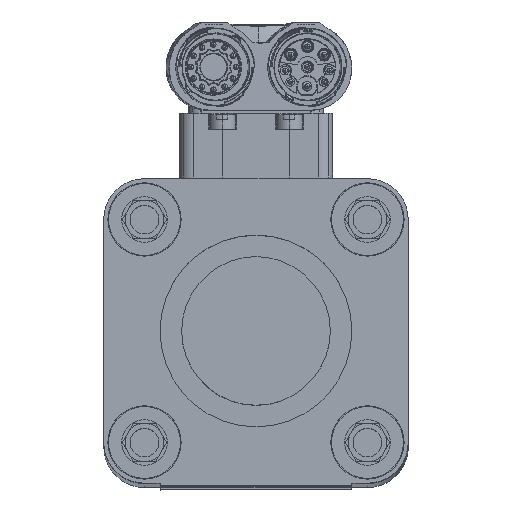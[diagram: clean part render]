
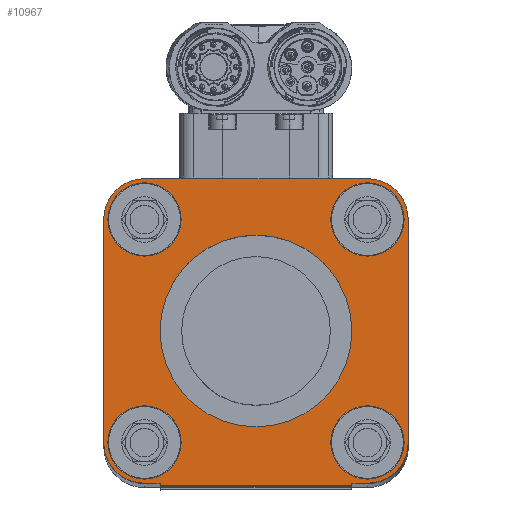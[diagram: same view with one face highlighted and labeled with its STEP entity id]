
A CAD part, left-side view. The second image highlights one B-rep face of the part: STEP entity #10967.
In plain terms, the highlighted planar face has unit normal (-1, 0, 0.002) as drawn and (0, 0, 1) by its records, which use the part's own axes.
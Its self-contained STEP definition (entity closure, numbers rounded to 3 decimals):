
#10967=ADVANCED_FACE('10:20',(#20415,#20416,#20417,#20418,#20419,#20420),#20421,.T.);
#20415=FACE_BOUND('',#51255,.T.);
#20416=FACE_BOUND('',#51256,.T.);
#20417=FACE_BOUND('',#51257,.T.);
#20418=FACE_BOUND('',#51258,.T.);
#20419=FACE_BOUND('',#51259,.T.);
#20420=FACE_OUTER_BOUND('',#51260,.T.);
#20421=PLANE('',#51261);
#51255=EDGE_LOOP('',(#71096,#71097));
#51256=EDGE_LOOP('',(#71098,#71099));
#51257=EDGE_LOOP('',(#71100,#71101));
#51258=EDGE_LOOP('',(#71102,#71103));
#51259=EDGE_LOOP('',(#71104,#71105));
#51260=EDGE_LOOP('',(#71106,#71107,#71108,#71109,#71110,#71111,#71112,#71113,#71114,#71115,#71116,#71117,#71118,#71119,#71120,#71121));
#51261=AXIS2_PLACEMENT_3D('',#71122,#71123,#71124);
#71096=ORIENTED_EDGE('',*,*,#73947,.F.);
#71097=ORIENTED_EDGE('',*,*,#75986,.F.);
#71098=ORIENTED_EDGE('',*,*,#81495,.F.);
#71099=ORIENTED_EDGE('',*,*,#82841,.F.);
#71100=ORIENTED_EDGE('',*,*,#75368,.F.);
#71101=ORIENTED_EDGE('',*,*,#73560,.F.);
#71102=ORIENTED_EDGE('',*,*,#81790,.F.);
#71103=ORIENTED_EDGE('',*,*,#83077,.F.);
#71104=ORIENTED_EDGE('',*,*,#78621,.F.);
#71105=ORIENTED_EDGE('',*,*,#78952,.F.);
#71106=ORIENTED_EDGE('',*,*,#74975,.F.);
#71107=ORIENTED_EDGE('',*,*,#72731,.F.);
#71108=ORIENTED_EDGE('',*,*,#81949,.F.);
#71109=ORIENTED_EDGE('',*,*,#79448,.F.);
#71110=ORIENTED_EDGE('',*,*,#79035,.F.);
#71111=ORIENTED_EDGE('',*,*,#76624,.F.);
#71112=ORIENTED_EDGE('',*,*,#78450,.F.);
#71113=ORIENTED_EDGE('',*,*,#79685,.F.);
#71114=ORIENTED_EDGE('',*,*,#73058,.F.);
#71115=ORIENTED_EDGE('',*,*,#81585,.F.);
#71116=ORIENTED_EDGE('',*,*,#76385,.F.);
#71117=ORIENTED_EDGE('',*,*,#72128,.F.);
#71118=ORIENTED_EDGE('',*,*,#82962,.F.);
#71119=ORIENTED_EDGE('',*,*,#77769,.F.);
#71120=ORIENTED_EDGE('',*,*,#82789,.F.);
#71121=ORIENTED_EDGE('',*,*,#77857,.F.);
#71122=CARTESIAN_POINT('',(0.0,0.0,34.0));
#71123=DIRECTION('',(0.0,0.0,1.0));
#71124=DIRECTION('',(1.0,0.0,0.0));
#72128=EDGE_CURVE('',#85198,#85200,#85201,.T.);
#72731=EDGE_CURVE('',#86239,#86235,#86241,.F.);
#73058=EDGE_CURVE('',#86793,#86795,#86796,.F.);
#73560=EDGE_CURVE('',#87672,#87674,#87675,.F.);
#73947=EDGE_CURVE('',#88328,#88324,#88330,.T.);
#74975=EDGE_CURVE('',#86235,#90096,#90099,.F.);
#75368=EDGE_CURVE('',#87674,#87672,#90768,.F.);
#75986=EDGE_CURVE('',#88324,#88328,#91815,.T.);
#76385=EDGE_CURVE('',#85200,#92488,#92489,.F.);
#76624=EDGE_CURVE('',#92888,#92890,#92891,.F.);
#77769=EDGE_CURVE('',#94839,#94841,#94842,.T.);
#77857=EDGE_CURVE('',#90096,#94987,#94988,.F.);
#78450=EDGE_CURVE('',#96002,#92888,#96004,.F.);
#78621=EDGE_CURVE('',#96294,#96290,#96296,.F.);
#78952=EDGE_CURVE('',#96290,#96294,#96832,.F.);
#79035=EDGE_CURVE('',#92890,#96972,#96975,.F.);
#79448=EDGE_CURVE('',#96972,#97674,#97677,.F.);
#79685=EDGE_CURVE('',#86795,#96002,#98083,.F.);
#81495=EDGE_CURVE('',#101212,#101210,#101214,.F.);
#81585=EDGE_CURVE('',#92488,#86793,#101358,.F.);
#81790=EDGE_CURVE('',#101700,#101698,#101702,.F.);
#81949=EDGE_CURVE('',#97674,#86239,#101964,.F.);
#82789=EDGE_CURVE('',#94987,#94839,#103367,.F.);
#82841=EDGE_CURVE('',#101210,#101212,#103456,.F.);
#82962=EDGE_CURVE('',#94841,#85198,#103663,.T.);
#83077=EDGE_CURVE('',#101698,#101700,#103866,.F.);
#85198=VERTEX_POINT('',#107862);
#85200=VERTEX_POINT('',#107865);
#85201=LINE('',#107866,#107867);
#86235=VERTEX_POINT('',#109851);
#86239=VERTEX_POINT('',#109857);
#86241=LINE('',#109860,#109861);
#86793=VERTEX_POINT('',#110890);
#86795=VERTEX_POINT('',#110893);
#86796=CIRCLE('',#110894,8.5);
#87672=VERTEX_POINT('',#112432);
#87674=VERTEX_POINT('',#112435);
#87675=CIRCLE('',#112436,7.65);
#88324=VERTEX_POINT('',#113558);
#88328=VERTEX_POINT('',#113563);
#88330=CIRCLE('',#113566,20.0);
#90096=VERTEX_POINT('',#116891);
#90099=CIRCLE('',#116895,8.5);
#90768=CIRCLE('',#118219,7.65);
#91815=CIRCLE('',#119976,20.0);
#92488=VERTEX_POINT('',#121059);
#92489=LINE('',#121060,#121061);
#92888=VERTEX_POINT('',#121705);
#92890=VERTEX_POINT('',#121708);
#92891=CIRCLE('',#121709,8.5);
#94839=VERTEX_POINT('',#125996);
#94841=VERTEX_POINT('',#125999);
#94842=LINE('',#126000,#126001);
#94987=VERTEX_POINT('',#126266);
#94988=CIRCLE('',#126267,8.5);
#96002=VERTEX_POINT('',#128126);
#96004=CIRCLE('',#128129,8.5);
#96290=VERTEX_POINT('',#128738);
#96294=VERTEX_POINT('',#128743);
#96296=CIRCLE('',#128746,7.65);
#96832=CIRCLE('',#129681,7.65);
#96972=VERTEX_POINT('',#129952);
#96975=LINE('',#129957,#129958);
#97674=VERTEX_POINT('',#131323);
#97677=CIRCLE('',#131327,8.5);
#98083=LINE('',#132162,#132163);
#101210=VERTEX_POINT('',#137787);
#101212=VERTEX_POINT('',#137790);
#101214=CIRCLE('',#137793,7.65);
#101358=CIRCLE('',#138133,8.5);
#101698=VERTEX_POINT('',#138903);
#101700=VERTEX_POINT('',#138906);
#101702=CIRCLE('',#138909,7.65);
#101964=CIRCLE('',#139432,8.5);
#103367=LINE('',#142420,#142421);
#103456=CIRCLE('',#142560,7.65);
#103663=LINE('',#142939,#142940);
#103866=CIRCLE('',#143272,7.65);
#107862=CARTESIAN_POINT('',(-4.191,-45.636,34.0));
#107865=CARTESIAN_POINT('',(-4.191,-45.136,34.0));
#107866=CARTESIAN_POINT('',(-4.191,-45.636,34.0));
#107867=VECTOR('',#148628,1.0);
#109851=CARTESIAN_POINT('',(47.559,-36.636,34.0));
#109857=CARTESIAN_POINT('',(47.559,9.864,34.0));
#109860=CARTESIAN_POINT('',(47.559,-6.693,34.0));
#109861=VECTOR('',#149254,1.0);
#110890=CARTESIAN_POINT('',(-13.451,-42.647,34.0));
#110893=CARTESIAN_POINT('',(-15.941,-36.636,34.0));
#110894=AXIS2_PLACEMENT_3D('',#149623,#149624,#149625);
#112432=CARTESIAN_POINT('',(0.209,-36.636,34.0));
#112435=CARTESIAN_POINT('',(-15.091,-36.636,34.0));
#112436=AXIS2_PLACEMENT_3D('',#150193,#150194,#150195);
#113558=CARTESIAN_POINT('',(35.809,-13.386,34.0));
#113563=CARTESIAN_POINT('',(-4.191,-13.386,34.0));
#113566=AXIS2_PLACEMENT_3D('',#150629,#150630,#150631);
#116891=CARTESIAN_POINT('',(45.069,-42.647,34.0));
#116895=AXIS2_PLACEMENT_3D('',#151764,#151765,#151766);
#118219=AXIS2_PLACEMENT_3D('',#152147,#152148,#152149);
#119976=AXIS2_PLACEMENT_3D('',#152942,#152943,#152944);
#121059=CARTESIAN_POINT('',(-7.441,-45.136,34.0));
#121060=CARTESIAN_POINT('',(7.904,-45.136,34.0));
#121061=VECTOR('',#153442,1.0);
#121705=CARTESIAN_POINT('',(-13.451,15.874,34.0));
#121708=CARTESIAN_POINT('',(-7.441,18.364,34.0));
#121709=AXIS2_PLACEMENT_3D('',#153763,#153764,#153765);
#125996=CARTESIAN_POINT('',(35.809,-45.136,34.0));
#125999=CARTESIAN_POINT('',(35.809,-45.636,34.0));
#126000=CARTESIAN_POINT('',(35.809,-45.136,34.0));
#126001=VECTOR('',#155033,1.0);
#126266=CARTESIAN_POINT('',(39.059,-45.136,34.0));
#126267=AXIS2_PLACEMENT_3D('',#155135,#155136,#155137);
#128126=CARTESIAN_POINT('',(-15.941,9.864,34.0));
#128129=AXIS2_PLACEMENT_3D('',#155821,#155822,#155823);
#128738=CARTESIAN_POINT('',(0.209,9.864,34.0));
#128743=CARTESIAN_POINT('',(-15.091,9.864,34.0));
#128746=AXIS2_PLACEMENT_3D('',#156040,#156041,#156042);
#129681=AXIS2_PLACEMENT_3D('',#156389,#156390,#156391);
#129952=CARTESIAN_POINT('',(39.059,18.364,34.0));
#129957=CARTESIAN_POINT('',(7.904,18.364,34.0));
#129958=VECTOR('',#156484,1.0);
#131323=CARTESIAN_POINT('',(45.069,15.874,34.0));
#131327=AXIS2_PLACEMENT_3D('',#156934,#156935,#156936);
#132162=CARTESIAN_POINT('',(-15.941,-6.693,34.0));
#132163=VECTOR('',#157196,1.0);
#137787=CARTESIAN_POINT('',(46.709,-36.636,34.0));
#137790=CARTESIAN_POINT('',(31.409,-36.636,34.0));
#137793=AXIS2_PLACEMENT_3D('',#159441,#159442,#159443);
#138133=AXIS2_PLACEMENT_3D('',#159532,#159533,#159534);
#138903=CARTESIAN_POINT('',(46.709,9.864,34.0));
#138906=CARTESIAN_POINT('',(31.409,9.864,34.0));
#138909=AXIS2_PLACEMENT_3D('',#159696,#159697,#159698);
#139432=AXIS2_PLACEMENT_3D('',#159831,#159832,#159833);
#142420=CARTESIAN_POINT('',(7.904,-45.136,34.0));
#142421=VECTOR('',#160588,1.0);
#142560=AXIS2_PLACEMENT_3D('',#160663,#160664,#160665);
#142939=CARTESIAN_POINT('',(35.809,-45.636,34.0));
#142940=VECTOR('',#160816,1.0);
#143272=AXIS2_PLACEMENT_3D('',#160978,#160979,#160980);
#148628=DIRECTION('',(0.0,1.0,0.0));
#149254=DIRECTION('',(-0.0,1.0,0.0));
#149623=CARTESIAN_POINT('',(-7.441,-36.636,34.0));
#149624=DIRECTION('',(0.0,0.0,1.0));
#149625=DIRECTION('',(-0.707,-0.707,0.0));
#150193=CARTESIAN_POINT('',(-7.441,-36.636,34.0));
#150194=DIRECTION('',(0.0,0.0,-1.0));
#150195=DIRECTION('',(1.0,0.0,0.0));
#150629=CARTESIAN_POINT('',(15.809,-13.386,34.0));
#150630=DIRECTION('',(0.0,0.0,1.0));
#150631=DIRECTION('',(1.0,0.0,-0.0));
#151764=CARTESIAN_POINT('',(39.059,-36.636,34.0));
#151765=DIRECTION('',(0.0,0.0,1.0));
#151766=DIRECTION('',(0.707,-0.707,0.0));
#152147=CARTESIAN_POINT('',(-7.441,-36.636,34.0));
#152148=DIRECTION('',(0.0,0.0,-1.0));
#152149=DIRECTION('',(1.0,0.0,0.0));
#152942=CARTESIAN_POINT('',(15.809,-13.386,34.0));
#152943=DIRECTION('',(0.0,0.0,1.0));
#152944=DIRECTION('',(1.0,0.0,-0.0));
#153442=DIRECTION('',(1.0,0.0,-0.0));
#153763=CARTESIAN_POINT('',(-7.441,9.864,34.0));
#153764=DIRECTION('',(0.0,0.0,1.0));
#153765=DIRECTION('',(-0.707,0.707,0.0));
#155033=DIRECTION('',(0.0,-1.0,0.0));
#155135=CARTESIAN_POINT('',(39.059,-36.636,34.0));
#155136=DIRECTION('',(0.0,0.0,1.0));
#155137=DIRECTION('',(0.707,-0.707,0.0));
#155821=CARTESIAN_POINT('',(-7.441,9.864,34.0));
#155822=DIRECTION('',(0.0,0.0,1.0));
#155823=DIRECTION('',(-0.707,0.707,0.0));
#156040=CARTESIAN_POINT('',(-7.441,9.864,34.0));
#156041=DIRECTION('',(0.0,0.0,-1.0));
#156042=DIRECTION('',(1.0,0.0,0.0));
#156389=CARTESIAN_POINT('',(-7.441,9.864,34.0));
#156390=DIRECTION('',(0.0,0.0,-1.0));
#156391=DIRECTION('',(1.0,0.0,0.0));
#156484=DIRECTION('',(-1.0,0.0,0.0));
#156934=CARTESIAN_POINT('',(39.059,9.864,34.0));
#156935=DIRECTION('',(0.0,-0.0,1.0));
#156936=DIRECTION('',(0.707,0.707,0.0));
#157196=DIRECTION('',(0.0,-1.0,0.0));
#159441=CARTESIAN_POINT('',(39.059,-36.636,34.0));
#159442=DIRECTION('',(0.0,0.0,-1.0));
#159443=DIRECTION('',(1.0,0.0,0.0));
#159532=CARTESIAN_POINT('',(-7.441,-36.636,34.0));
#159533=DIRECTION('',(0.0,0.0,1.0));
#159534=DIRECTION('',(-0.707,-0.707,0.0));
#159696=CARTESIAN_POINT('',(39.059,9.864,34.0));
#159697=DIRECTION('',(0.0,0.0,-1.0));
#159698=DIRECTION('',(1.0,0.0,0.0));
#159831=CARTESIAN_POINT('',(39.059,9.864,34.0));
#159832=DIRECTION('',(0.0,-0.0,1.0));
#159833=DIRECTION('',(0.707,0.707,0.0));
#160588=DIRECTION('',(1.0,0.0,-0.0));
#160663=CARTESIAN_POINT('',(39.059,-36.636,34.0));
#160664=DIRECTION('',(0.0,0.0,-1.0));
#160665=DIRECTION('',(1.0,0.0,0.0));
#160816=DIRECTION('',(-1.0,0.0,0.0));
#160978=CARTESIAN_POINT('',(39.059,9.864,34.0));
#160979=DIRECTION('',(0.0,0.0,-1.0));
#160980=DIRECTION('',(1.0,0.0,0.0));
